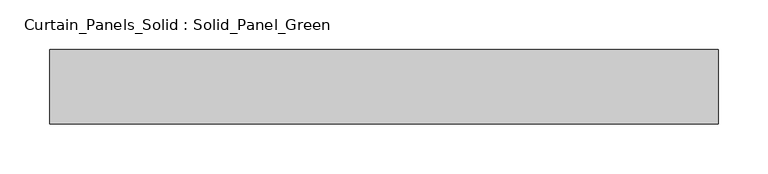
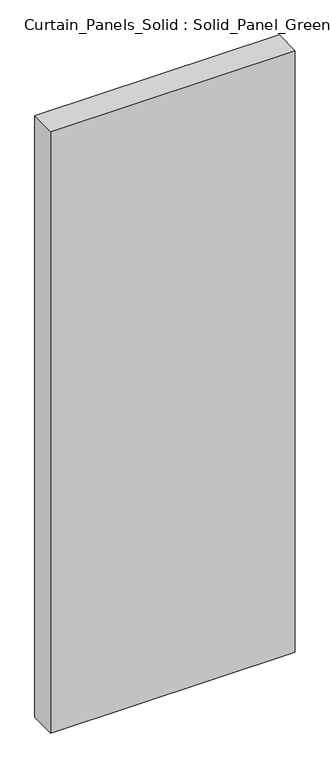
"""IFC4 building model written with IfcOpenShell, lengths in millimetres: plate geometry, Curtain_Panels_Solid : Solid_Panel_Green."""

from ifc_helpers import new_model, si_unit, origin, origin_with_axes, place, context, project, spatial, polyline, outline, extrude, source, transform, mapped, element, save


def curtain_panels_solid_solid_panel_green_c8734c95(model_context):
    return source(origin(), model_context, "Body", "SweptSolid", [
        extrude(outline(polyline([(335.8333334, -25.0), (-335.8333334, -25.0), (-335.8333334, 50.0), (335.8333334, 50.0), (335.8333334, -25.0)])), origin_with_axes(), (0.0, 0.0, 1.0), 1745.0349339),
    ])


if __name__ == "__main__":
    model = new_model("IFC4")
    model_context = context("Model", 3, world=origin())
    ifc_project = project(units=[si_unit("LENGTHUNIT", "METRE", prefix="MILLI")], contexts=[model_context])
    site = spatial("IfcSite", under=ifc_project)
    building = spatial("IfcBuilding", under=site)
    placement = place(None, origin())
    curtain_panels_solid_solid_panel_green_shape = curtain_panels_solid_solid_panel_green_c8734c95(model_context)
    element("IfcPlate", 1, ObjectType="Curtain_Panels_Solid : Solid_Panel_Green", at=placement, inside=building, context=model_context, shape_type="MappedRepresentation", body=[
        mapped(curtain_panels_solid_solid_panel_green_shape, transform((0.0, 0.0, 0.0), x_axis=(1.0, 0.0, 0.0), y_axis=(0.0, 1.0, 0.0), z_axis=(0.0, 0.0, 1.0))),
    ])
    save(model, "model.ifc")
